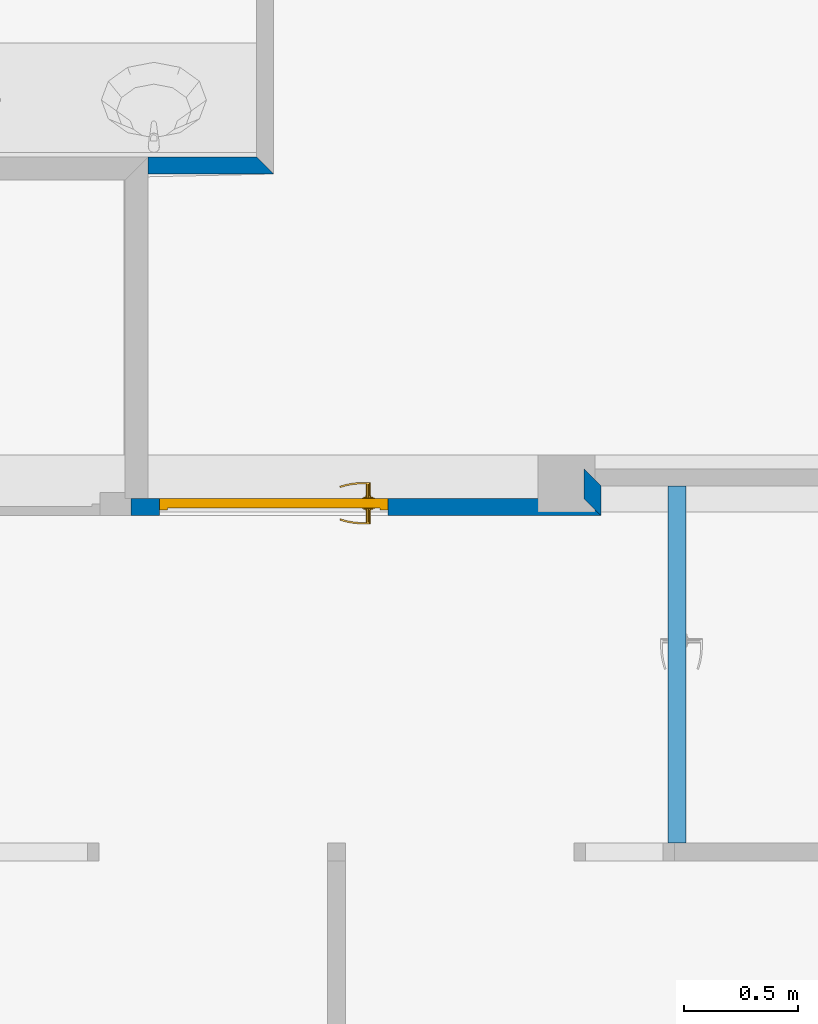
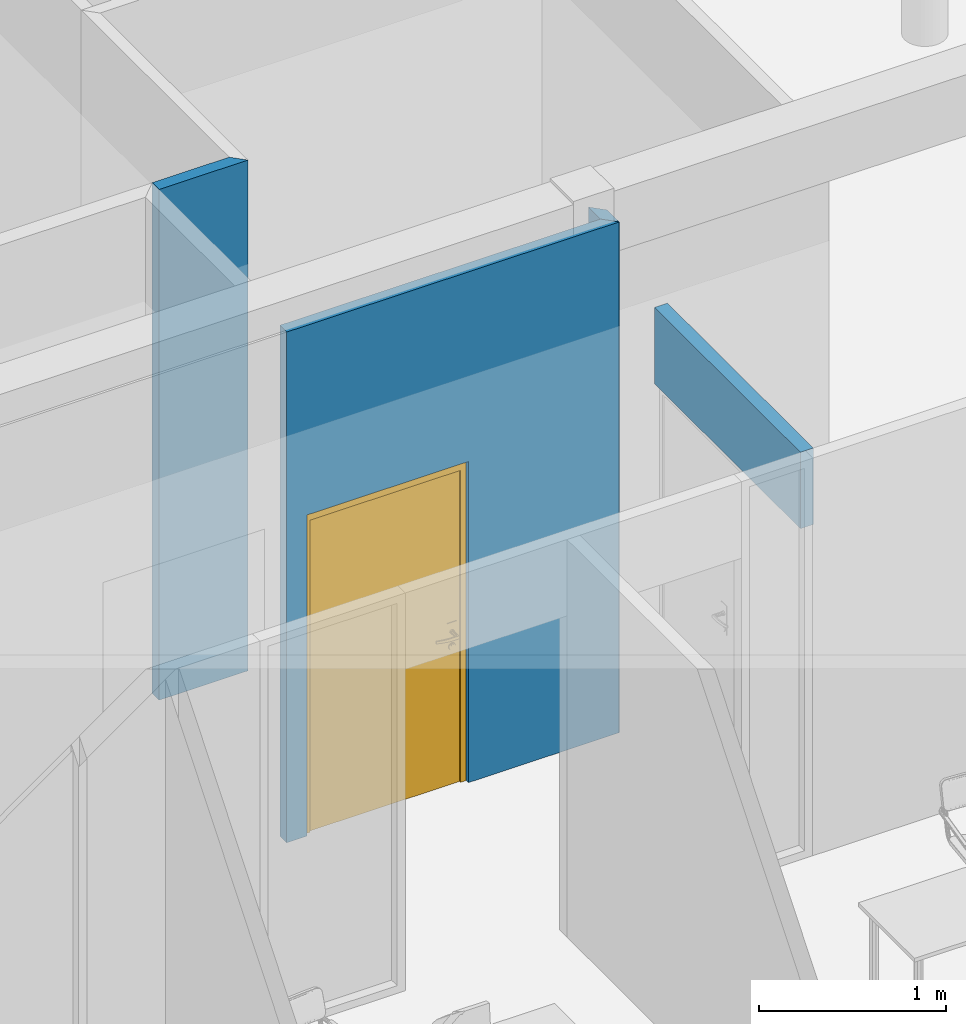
# One storey, part 21 of 91: 4 walls, 1 door, 2 openings.
"""IFC2X3 building model written with IfcOpenShell, lengths in metres."""

from ifc_helpers import new_model, entity, si_unit, converted_unit, derived_unit, money_unit, direction, frame, origin_with_axes, origin_2d_with_axis, place, context, subcontext, project, spatial, polyline, rectangle, outline, extrude, open_shell, faceted_brep, surface_model, source, transform, mapped, material, layer, layer_set, layer_usage, type_object, element, fill, save


model = new_model("IFC2X3")

# Units and contexts
model_context = context("Model", 3, precision=1e-05, world=origin_with_axes(), true_north=direction((0.0, 1.0)))
body_context = subcontext(model_context, "Body", "Model", "MODEL_VIEW")
ifc_project = project(units=[si_unit("LENGTHUNIT", "METRE"), si_unit("AREAUNIT", "SQUARE_METRE"), si_unit("VOLUMEUNIT", "CUBIC_METRE"), converted_unit("PLANEANGLEUNIT", "DEGREE", entity("IfcPlaneAngleMeasure", 0.0174532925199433), si_unit("PLANEANGLEUNIT", "RADIAN"), dimensions=[0, 0, 0, 0, 0, 0, 0]), money_unit("EUR"), converted_unit("TIMEUNIT", "Year", entity("IfcTimeMeasure", 31557600.0), si_unit("TIMEUNIT", "SECOND"), dimensions=[0, 0, 1, 0, 0, 0, 0]), si_unit("MASSUNIT", "GRAM", prefix="KILO"), si_unit("THERMODYNAMICTEMPERATUREUNIT", "DEGREE_CELSIUS"), si_unit("LUMINOUSINTENSITYUNIT", "LUMEN"), si_unit("ENERGYUNIT", "JOULE", prefix="MEGA"), derived_unit("THERMALCONDUCTANCEUNIT", [(si_unit("POWERUNIT", "WATT"), 1), (si_unit("LENGTHUNIT", "METRE"), -1), (si_unit("THERMODYNAMICTEMPERATUREUNIT", "KELVIN"), -1)]), derived_unit("SPECIFICHEATCAPACITYUNIT", [(si_unit("ENERGYUNIT", "JOULE"), 1), (si_unit("MASSUNIT", "GRAM", prefix="KILO"), -1), (si_unit("THERMODYNAMICTEMPERATUREUNIT", "KELVIN"), -1)]), derived_unit("MASSDENSITYUNIT", [(si_unit("MASSUNIT", "GRAM", prefix="KILO"), 1), (si_unit("VOLUMEUNIT", "CUBIC_METRE"), -1)])], contexts=[model_context])

# Site, building, storey
site_placement = place(None, origin_with_axes())
site = spatial("IfcSite", under=ifc_project, at=site_placement, Name="Site", CompositionType="ELEMENT")
building_placement = place(site_placement, origin_with_axes())
building = spatial("IfcBuilding", under=site, at=building_placement, Name="Bâtiment", CompositionType="ELEMENT")
storey_placement = place(building_placement, origin_with_axes())
storey = spatial("IfcBuildingStorey", under=building, at=storey_placement, Name="RDC", CompositionType="ELEMENT", Elevation=0.0)

# Wall
ifc_material_1 = material(Name="Finition int - Plaque de plâtre")
ifc_layer_1 = layer(ifc_material_1, 0.013, ventilated="UNKNOWN")
ifc_material_2 = material(Name="Isolation - Laine de verre")
ifc_layer_2 = layer(ifc_material_2, 0.048, ventilated="UNKNOWN")
ifc_layer_3 = layer(ifc_material_1, 0.013, ventilated="UNKNOWN")
ifc_layer_set_1 = layer_set([ifc_layer_1, ifc_layer_2, ifc_layer_3], Name="*Cloison 72")
ifc_layer_usage_1 = layer_usage(ifc_layer_set_1, "AXIS2", "NEGATIVE", 0.0)
wall_type_1 = type_object("IfcWallType", Name="*Cloison 72 74", PredefinedType="NOTDEFINED")
wall_1_placement = place(storey_placement, frame((41.58700816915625, -20.02867050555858, 0.0), z_axis=(0.0, 0.0, 1.0), x_axis=(0.9999999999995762, -9.206209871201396e-07, 0.0)))
element("IfcWallStandardCase", 1, at=wall_1_placement, inside=storey, type_object=wall_type_1, material=ifc_layer_usage_1, Name="Cloisons ép. 72mm", context=body_context, shape_type="SweptSolid", body=[
    extrude(outline(polyline([(6.81259493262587e-08, -0.07400000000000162), (0.5500000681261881, -0.07400000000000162), (0.476000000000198, 0.0), (0.0, 0.0), (6.81259493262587e-08, -0.07400000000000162)])), origin_with_axes(), (0.0, 0.0, 1.0), 3.34),
])

# Wall, opening, door
ifc_layer_usage_2 = layer_usage(ifc_layer_set_1, "AXIS2", "NEGATIVE", 0.0)
wall_2_placement = place(storey_placement, frame((43.57009865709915, -21.59755971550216, 0.0), z_axis=(0.0, 0.0, 1.0), x_axis=(-1.0, 0.0, 0.0)))
wall_2 = element("IfcWallStandardCase", 2, at=wall_2_placement, inside=storey, type_object=wall_type_1, material=ifc_layer_usage_2, Name="Cloisons ép. 72mm", context=body_context, shape_type="SweptSolid", body=[
    extrude(outline(polyline([(0.07399999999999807, -0.07400000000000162), (2.057090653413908, -0.07400000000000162), (2.057090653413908, 0.0), (0.0, 0.0), (0.07399999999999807, -0.07400000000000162)])), origin_with_axes(), (0.0, 0.0, 1.0), 3.34),
])
opening_1_placement = place(wall_2_placement, frame((1.433090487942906, 0.0, 0.0), z_axis=(0.0, 0.0, 1.0), x_axis=(1.0, 0.0, 0.0)))
opening_1 = element("IfcOpeningElement", 3, at=opening_1_placement, cuts=wall_2, Name="Pi.05", context=body_context, shape_type="SweptSolid", body=[
    extrude(rectangle(XDim=1.0, YDim=2.1, at=origin_2d_with_axis()), frame((0.0, 0.07400000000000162, 1.05), z_axis=(0.0, 1.0, 0.0), x_axis=(1.0, 0.0, 0.0)), (0.0, 0.0, -1.0), 0.222),
])
door_style = type_object("IfcDoorStyle", Name="Porte 27", ConstructionType="NOTDEFINED", OperationType="SINGLE_SWING_LEFT", ParameterTakesPrecedence=False, Sizeable=False)
shared_shape = source(origin_with_axes(), body_context, "Body", "SurfaceModel", [
    faceted_brep([(0.5, 0.0, 0.0), (0.5, -0.05, 0.0), (0.465, -0.05, 0.0), (0.465, 0.0, 0.0), (0.5, 0.0, 2.04), (0.5, -0.05, 2.04), (0.465, -0.05, 2.04), (0.465, 0.0, 2.04)], [[[0, 1, 2, 3]], [[4, 5, 1, 0]], [[1, 5, 6, 2]], [[3, 2, 6, 7]], [[0, 3, 7, 4]], [[7, 6, 5, 4]]]),
    faceted_brep([(-0.5, 0.0, 0.0), (-0.5, -0.05, 0.0), (-0.5, -0.05, 2.04), (-0.5, 0.0, 2.04), (-0.465, 0.0, 0.0), (-0.465, -0.05, 0.0), (-0.465, -0.05, 2.04), (-0.465, 0.0, 2.04)], [[[0, 1, 2, 3]], [[4, 5, 1, 0]], [[1, 5, 6, 2]], [[3, 2, 6, 7]], [[0, 3, 7, 4]], [[7, 6, 5, 4]]]),
    faceted_brep([(0.5, 0.0, 2.1), (0.5, -0.05, 2.1), (0.5, -0.05, 2.04), (0.5, 0.0, 2.04), (-0.5, 0.0, 2.1), (-0.5, -0.05, 2.1), (-0.5, -0.05, 2.04), (-0.465, -0.05, 2.04), (0.465, -0.05, 2.04), (0.465, 0.0, 2.04), (-0.465, 0.0, 2.04), (-0.5, 0.0, 2.04)], [[[0, 1, 2, 3]], [[4, 5, 1, 0]], [[1, 5, 6, 7, 8, 2]], [[3, 2, 8, 9]], [[0, 3, 9, 10, 11, 4]], [[11, 6, 5, 4]], [[10, 7, 6, 11]], [[9, 8, 7, 10]]]),
    faceted_brep([(0.4435, -0.04, 1.06), (0.3865, -0.04, 1.06), (0.3865, -0.043, 1.06), (0.4435, -0.043, 1.06), (0.4435, -0.04, 0.87), (0.3865, -0.04, 0.87), (0.3865, -0.043, 0.87), (0.4435, -0.043, 0.87)], [[[0, 1, 2, 3]], [[0, 4, 5, 1]], [[1, 5, 6, 2]], [[3, 2, 6, 7]], [[4, 0, 3, 7]], [[5, 4, 7, 6]]]),
    faceted_brep([(0.4149999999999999, -0.104, 0.99), (0.4199999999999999, -0.104, 0.9913397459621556), (0.4199999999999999, -0.111, 0.9913397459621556), (0.4149999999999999, -0.111, 0.99), (0.3899999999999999, -0.104, 0.99), (0.3899999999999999, -0.104, 1.01), (0.4149999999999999, -0.104, 1.01), (0.4199999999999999, -0.104, 1.008660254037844), (0.4236602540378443, -0.104, 1.005), (0.4249999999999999, -0.104, 1.0), (0.4236602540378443, -0.104, 0.995), (0.4236602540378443, -0.111, 0.995), (0.4249999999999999, -0.111, 1.0), (0.4236602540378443, -0.111, 1.005), (0.4199999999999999, -0.111, 1.008660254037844), (0.4149999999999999, -0.111, 1.01), (0.3899999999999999, -0.111, 1.01), (0.3899999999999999, -0.111, 0.99)], [[[0, 1, 2, 3]], [[0, 4, 5, 6, 7, 8, 9, 10, 1]], [[1, 10, 11, 2]], [[3, 2, 11, 12, 13, 14, 15, 16, 17]], [[4, 0, 3, 17]], [[5, 4, 17, 16]], [[6, 5, 16, 15]], [[7, 6, 15, 14]], [[8, 7, 14, 13]], [[9, 8, 13, 12]], [[10, 9, 12, 11]]]),
    surface_model("IfcShellBasedSurfaceModel", [(0.3899999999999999, -0.104, 1.01), (0.3769017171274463, -0.104, 1.009607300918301), (0.3765960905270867, -0.111, 1.009607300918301), (0.3899999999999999, -0.104, 0.99), (0.3769017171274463, -0.104, 0.9903926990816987), (0.349890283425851, -0.1086635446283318, 1.008821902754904), (0.3899999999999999, -0.111, 1.01), (0.3899999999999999, -0.111, 0.99), (0.3508048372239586, -0.1017168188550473, 0.9911780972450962), (0.3508048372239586, -0.1017168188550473, 1.008821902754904), (0.349890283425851, -0.1086635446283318, 0.9911780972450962), (0.3765960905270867, -0.111, 0.9903926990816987), (0.325006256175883, -0.09716783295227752, 0.9919634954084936), (0.325006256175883, -0.09716783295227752, 1.008036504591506), (0.3234897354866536, -0.104008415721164, 1.008036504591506), (0.3234897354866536, -0.104008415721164, 0.9919634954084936), (0.2997023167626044, -0.09038766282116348, 0.9927488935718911), (0.2997023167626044, -0.09038766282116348, 1.007251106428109), (0.2975953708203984, -0.09707004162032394, 1.007251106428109), (0.2975953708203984, -0.09707004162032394, 0.9927488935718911), (0.2918294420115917, -0.08752217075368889, 0.993), (0.2918294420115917, -0.08752217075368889, 1.007), (0.2895387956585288, -0.09413768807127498, 1.007), (0.2895387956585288, -0.09413768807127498, 0.993)], [open_shell([[[0, 1, 2]], [[0, 3, 4, 1]], [[1, 5, 2]], [[0, 2, 6]], [[4, 3, 7]], [[1, 4, 8, 9]], [[1, 9, 5]], [[2, 5, 10, 11]], [[6, 2, 11, 7]], [[4, 7, 11]], [[8, 4, 11]], [[9, 8, 12, 13]], [[9, 14, 5]], [[5, 14, 15, 10]], [[8, 11, 10]], [[12, 8, 10]], [[13, 12, 16, 17]], [[9, 13, 14]], [[14, 18, 19, 15]], [[12, 10, 15]], [[16, 12, 15]], [[17, 16, 20, 21]], [[13, 17, 18]], [[13, 18, 14]], [[18, 22, 23, 19]], [[16, 15, 19]], [[20, 16, 19]], [[21, 20, 23, 22]], [[17, 21, 22]], [[17, 22, 18]], [[20, 19, 23]]])]),
    faceted_brep([(0.4046076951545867, -0.05300000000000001, 0.994), (0.4029999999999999, -0.05300000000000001, 1.0), (0.4019999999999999, -0.043, 1.0), (0.4037416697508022, -0.043, 0.9935), (0.4089999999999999, -0.05300000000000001, 0.9896076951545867), (0.4149999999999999, -0.05300000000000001, 0.988), (0.4209999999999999, -0.05300000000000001, 0.9896076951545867), (0.4253923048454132, -0.05300000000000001, 0.994), (0.4269999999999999, -0.05300000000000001, 1.0), (0.4253923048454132, -0.05300000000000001, 1.006), (0.4209999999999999, -0.05300000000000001, 1.010392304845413), (0.4149999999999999, -0.05300000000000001, 1.012), (0.4089999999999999, -0.05300000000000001, 1.010392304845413), (0.4046076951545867, -0.05300000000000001, 1.006), (0.4037416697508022, -0.043, 1.0065), (0.4084999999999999, -0.043, 1.011258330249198), (0.4149999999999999, -0.043, 1.013), (0.4214999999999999, -0.043, 1.011258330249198), (0.4262583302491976, -0.043, 1.0065), (0.4279999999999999, -0.043, 1.0), (0.4262583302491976, -0.043, 0.9934999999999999), (0.4214999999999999, -0.043, 0.9887416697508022), (0.4149999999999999, -0.043, 0.987), (0.4084999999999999, -0.043, 0.9887416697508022)], [[[0, 1, 2, 3]], [[1, 0, 4, 5, 6, 7, 8, 9, 10, 11, 12, 13]], [[1, 13, 14, 2]], [[2, 14, 15, 16, 17, 18, 19, 20, 21, 22, 23, 3]], [[4, 0, 3, 23]], [[5, 4, 23, 22]], [[6, 5, 22, 21]], [[7, 6, 21, 20]], [[8, 7, 20, 19]], [[9, 8, 19, 18]], [[10, 9, 18, 17]], [[11, 10, 17, 16]], [[12, 11, 16, 15]], [[13, 12, 15, 14]]]),
    faceted_brep([(0.3976794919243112, -0.04700000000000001, 0.895), (0.3949999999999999, -0.04700000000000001, 0.905), (0.3929999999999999, -0.043, 0.905), (0.3959474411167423, -0.04300000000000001, 0.894), (0.4049999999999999, -0.04700000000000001, 0.8876794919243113), (0.4149999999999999, -0.04700000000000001, 0.885), (0.4249999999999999, -0.04700000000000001, 0.8876794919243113), (0.4323205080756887, -0.04700000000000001, 0.895), (0.4349999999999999, -0.04700000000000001, 0.905), (0.4323205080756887, -0.04700000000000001, 0.915), (0.4249999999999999, -0.04700000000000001, 0.9223205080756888), (0.4149999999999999, -0.04700000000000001, 0.925), (0.4049999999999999, -0.04700000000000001, 0.9223205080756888), (0.3976794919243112, -0.04700000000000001, 0.915), (0.3959474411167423, -0.043, 0.916), (0.4039999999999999, -0.043, 0.9240525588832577), (0.4149999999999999, -0.043, 0.927), (0.4259999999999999, -0.04300000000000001, 0.9240525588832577), (0.4340525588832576, -0.04300000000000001, 0.916), (0.4369999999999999, -0.04300000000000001, 0.905), (0.4340525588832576, -0.04300000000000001, 0.894), (0.4259999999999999, -0.04300000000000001, 0.8859474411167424), (0.4149999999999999, -0.04300000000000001, 0.883), (0.4039999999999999, -0.04300000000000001, 0.8859474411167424)], [[[0, 1, 2, 3]], [[1, 0, 4, 5, 6, 7, 8, 9, 10, 11, 12, 13]], [[1, 13, 14, 2]], [[2, 14, 15, 16, 17, 18, 19, 20, 21, 22, 23, 3]], [[4, 0, 3, 23]], [[5, 4, 23, 22]], [[6, 5, 22, 21]], [[7, 6, 21, 20]], [[8, 7, 20, 19]], [[9, 8, 19, 18]], [[10, 9, 18, 17]], [[11, 10, 17, 16]], [[12, 11, 16, 15]], [[13, 12, 15, 14]]]),
    faceted_brep([(0.4100502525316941, -0.04900000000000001, 0.9090502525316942), (0.4079999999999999, -0.04900000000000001, 0.914), (0.4069999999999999, -0.04700000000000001, 0.914), (0.4093431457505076, -0.04700000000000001, 0.9083431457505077), (0.4149999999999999, -0.04900000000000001, 0.907), (0.4199497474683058, -0.04900000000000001, 0.9090502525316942), (0.4219999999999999, -0.04900000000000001, 0.914), (0.4199497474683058, -0.04900000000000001, 0.9189497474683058), (0.4149999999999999, -0.04900000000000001, 0.921), (0.4100502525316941, -0.04900000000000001, 0.9189497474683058), (0.4093431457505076, -0.04700000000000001, 0.9196568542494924), (0.4149999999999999, -0.04700000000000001, 0.922), (0.4206568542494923, -0.04700000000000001, 0.9196568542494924), (0.4229999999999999, -0.04700000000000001, 0.914), (0.4206568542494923, -0.04700000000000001, 0.9083431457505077), (0.4149999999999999, -0.04700000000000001, 0.906)], [[[0, 1, 2, 3]], [[1, 0, 4, 5, 6, 7, 8, 9]], [[1, 9, 10, 2]], [[2, 10, 11, 12, 13, 14, 15, 3]], [[4, 0, 3, 15]], [[5, 4, 15, 14]], [[6, 5, 14, 13]], [[7, 6, 13, 12]], [[8, 7, 12, 11]], [[9, 8, 11, 10]]]),
    faceted_brep([(0.4149999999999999, -0.05300000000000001, 1.01), (0.4099999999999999, -0.05300000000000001, 1.008660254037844), (0.4099999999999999, -0.104, 1.008660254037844), (0.4149999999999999, -0.104, 1.01), (0.4199999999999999, -0.05300000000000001, 1.008660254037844), (0.4236602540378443, -0.05300000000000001, 1.005), (0.4249999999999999, -0.05300000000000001, 1.0), (0.4236602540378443, -0.05300000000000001, 0.995), (0.4199999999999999, -0.05300000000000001, 0.9913397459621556), (0.4149999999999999, -0.05300000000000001, 0.99), (0.4099999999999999, -0.05300000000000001, 0.9913397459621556), (0.4063397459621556, -0.05300000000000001, 0.995), (0.4049999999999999, -0.05300000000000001, 1.0), (0.4063397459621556, -0.05300000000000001, 1.005), (0.4063397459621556, -0.104, 1.005), (0.4049999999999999, -0.104, 1.0), (0.4063397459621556, -0.104, 0.995), (0.4099999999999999, -0.104, 0.9913397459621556), (0.4149999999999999, -0.104, 0.99), (0.4199999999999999, -0.104, 0.9913397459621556), (0.4236602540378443, -0.104, 0.995), (0.4249999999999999, -0.104, 1.0), (0.4236602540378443, -0.104, 1.005), (0.4199999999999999, -0.104, 1.008660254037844)], [[[0, 1, 2, 3]], [[0, 4, 5, 6, 7, 8, 9, 10, 11, 12, 13, 1]], [[1, 13, 14, 2]], [[3, 2, 14, 15, 16, 17, 18, 19, 20, 21, 22, 23]], [[4, 0, 3, 23]], [[5, 4, 23, 22]], [[6, 5, 22, 21]], [[7, 6, 21, 20]], [[8, 7, 20, 19]], [[9, 8, 19, 18]], [[10, 9, 18, 17]], [[11, 10, 17, 16]], [[12, 11, 16, 15]], [[13, 12, 15, 14]]]),
    faceted_brep([(0.4434999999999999, 0.0, 1.06), (0.4434999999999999, 0.003000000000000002, 1.06), (0.3864999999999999, 0.002999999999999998, 1.06), (0.3864999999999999, 0.0, 1.06), (0.4434999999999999, 0.0, 0.87), (0.4434999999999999, 0.003000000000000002, 0.87), (0.3864999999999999, 0.002999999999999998, 0.87), (0.3864999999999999, 0.0, 0.87)], [[[0, 1, 2, 3]], [[4, 5, 1, 0]], [[1, 5, 6, 2]], [[3, 2, 6, 7]], [[0, 3, 7, 4]], [[7, 6, 5, 4]]]),
    faceted_brep([(0.4149999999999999, 0.064, 0.99), (0.4149999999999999, 0.07100000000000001, 0.99), (0.4199999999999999, 0.07100000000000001, 0.9913397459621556), (0.4199999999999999, 0.064, 0.9913397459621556), (0.3899999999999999, 0.064, 0.99), (0.3899999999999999, 0.071, 0.99), (0.3899999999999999, 0.071, 1.01), (0.4149999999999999, 0.07100000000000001, 1.01), (0.4199999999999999, 0.07100000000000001, 1.008660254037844), (0.4236602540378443, 0.07100000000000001, 1.005), (0.4249999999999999, 0.07100000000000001, 1.0), (0.4236602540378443, 0.07100000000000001, 0.995), (0.4236602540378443, 0.064, 0.995), (0.4249999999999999, 0.064, 1.0), (0.4236602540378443, 0.064, 1.005), (0.4199999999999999, 0.064, 1.008660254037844), (0.4149999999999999, 0.064, 1.01), (0.3899999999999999, 0.064, 1.01)], [[[0, 1, 2, 3]], [[4, 5, 1, 0]], [[1, 5, 6, 7, 8, 9, 10, 11, 2]], [[3, 2, 11, 12]], [[0, 3, 12, 13, 14, 15, 16, 17, 4]], [[17, 6, 5, 4]], [[16, 7, 6, 17]], [[15, 8, 7, 16]], [[14, 9, 8, 15]], [[13, 10, 9, 14]], [[12, 11, 10, 13]]]),
    surface_model("IfcShellBasedSurfaceModel", [(0.3899999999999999, 0.064, 1.01), (0.3765960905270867, 0.071, 1.009607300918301), (0.3769017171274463, 0.064, 1.009607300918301), (0.3899999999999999, 0.07100000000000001, 1.01), (0.349890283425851, 0.06866354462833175, 1.008821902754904), (0.3769017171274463, 0.064, 0.9903926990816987), (0.3899999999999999, 0.064, 0.99), (0.3899999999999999, 0.07100000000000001, 0.99), (0.3765960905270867, 0.071, 0.9903926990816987), (0.349890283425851, 0.06866354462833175, 0.9911780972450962), (0.3508048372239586, 0.06171681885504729, 1.008821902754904), (0.3508048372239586, 0.06171681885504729, 0.9911780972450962), (0.3234897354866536, 0.064008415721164, 0.9919634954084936), (0.3234897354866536, 0.064008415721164, 1.008036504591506), (0.325006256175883, 0.05716783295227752, 1.008036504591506), (0.325006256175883, 0.05716783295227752, 0.9919634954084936), (0.2975953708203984, 0.05707004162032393, 0.9927488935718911), (0.2975953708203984, 0.05707004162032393, 1.007251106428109), (0.2997023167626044, 0.05038766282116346, 1.007251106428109), (0.2997023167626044, 0.05038766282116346, 0.9927488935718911), (0.2895387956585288, 0.05413768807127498, 0.993), (0.2895387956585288, 0.05413768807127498, 1.007), (0.2918294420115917, 0.04752217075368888, 1.007), (0.2918294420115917, 0.04752217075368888, 0.993)], [open_shell([[[0, 1, 2]], [[0, 3, 1]], [[2, 1, 4]], [[0, 2, 5, 6]], [[3, 7, 8, 1]], [[1, 8, 9, 4]], [[2, 4, 10]], [[2, 10, 11, 5]], [[5, 7, 6]], [[5, 8, 7]], [[11, 9, 8]], [[4, 9, 12, 13]], [[10, 4, 13]], [[10, 14, 15, 11]], [[11, 8, 5]], [[15, 9, 11]], [[15, 12, 9]], [[13, 12, 16, 17]], [[10, 13, 14]], [[14, 18, 19, 15]], [[19, 12, 15]], [[19, 16, 12]], [[17, 16, 20, 21]], [[14, 13, 17]], [[14, 17, 18]], [[18, 22, 23, 19]], [[23, 16, 19]], [[23, 20, 16]], [[22, 21, 20, 23]], [[18, 17, 21]], [[18, 21, 22]]])]),
    faceted_brep([(0.4046076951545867, 0.013, 0.994), (0.4037416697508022, 0.003, 0.9935), (0.4019999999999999, 0.002999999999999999, 1.0), (0.4029999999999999, 0.013, 1.0), (0.4089999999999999, 0.013, 0.9896076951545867), (0.4084999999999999, 0.003, 0.9887416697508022), (0.4149999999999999, 0.003000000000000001, 0.987), (0.4214999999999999, 0.003000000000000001, 0.9887416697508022), (0.4262583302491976, 0.003000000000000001, 0.9934999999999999), (0.4279999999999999, 0.003000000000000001, 1.0), (0.4262583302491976, 0.003, 1.0065), (0.4214999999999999, 0.003, 1.011258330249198), (0.4149999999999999, 0.002999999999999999, 1.013), (0.4084999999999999, 0.002999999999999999, 1.011258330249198), (0.4037416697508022, 0.002999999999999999, 1.0065), (0.4046076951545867, 0.013, 1.006), (0.4089999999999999, 0.013, 1.010392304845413), (0.4149999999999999, 0.013, 1.012), (0.4209999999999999, 0.013, 1.010392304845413), (0.4253923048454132, 0.013, 1.006), (0.4269999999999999, 0.013, 1.0), (0.4253923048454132, 0.013, 0.994), (0.4209999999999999, 0.013, 0.9896076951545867), (0.4149999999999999, 0.013, 0.988)], [[[0, 1, 2, 3]], [[4, 5, 1, 0]], [[2, 1, 5, 6, 7, 8, 9, 10, 11, 12, 13, 14]], [[3, 2, 14, 15]], [[3, 15, 16, 17, 18, 19, 20, 21, 22, 23, 4, 0]], [[23, 6, 5, 4]], [[22, 7, 6, 23]], [[21, 8, 7, 22]], [[20, 9, 8, 21]], [[19, 10, 9, 20]], [[18, 11, 10, 19]], [[17, 12, 11, 18]], [[16, 13, 12, 17]], [[15, 14, 13, 16]]]),
    faceted_brep([(0.3976794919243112, 0.007000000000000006, 0.895), (0.3959474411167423, 0.003000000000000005, 0.894), (0.3929999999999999, 0.003000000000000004, 0.905), (0.3949999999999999, 0.007000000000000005, 0.905), (0.4049999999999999, 0.007000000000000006, 0.8876794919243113), (0.4039999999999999, 0.003000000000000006, 0.8859474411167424), (0.4149999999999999, 0.003000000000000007, 0.883), (0.4259999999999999, 0.003000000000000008, 0.8859474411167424), (0.4340525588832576, 0.003000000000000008, 0.894), (0.4369999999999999, 0.003000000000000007, 0.905), (0.4340525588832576, 0.003000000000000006, 0.916), (0.4259999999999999, 0.003000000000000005, 0.9240525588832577), (0.4149999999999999, 0.003000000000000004, 0.927), (0.4039999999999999, 0.003000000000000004, 0.9240525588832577), (0.3959474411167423, 0.003000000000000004, 0.916), (0.3976794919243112, 0.007000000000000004, 0.915), (0.4049999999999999, 0.007000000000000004, 0.9223205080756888), (0.4149999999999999, 0.007000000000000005, 0.925), (0.4249999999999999, 0.007000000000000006, 0.9223205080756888), (0.4323205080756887, 0.007000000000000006, 0.915), (0.4349999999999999, 0.007000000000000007, 0.905), (0.4323205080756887, 0.007000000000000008, 0.895), (0.4249999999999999, 0.007000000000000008, 0.8876794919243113), (0.4149999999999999, 0.007000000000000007, 0.885)], [[[0, 1, 2, 3]], [[4, 5, 1, 0]], [[2, 1, 5, 6, 7, 8, 9, 10, 11, 12, 13, 14]], [[3, 2, 14, 15]], [[3, 15, 16, 17, 18, 19, 20, 21, 22, 23, 4, 0]], [[23, 6, 5, 4]], [[22, 7, 6, 23]], [[21, 8, 7, 22]], [[20, 9, 8, 21]], [[19, 10, 9, 20]], [[18, 11, 10, 19]], [[17, 12, 11, 18]], [[16, 13, 12, 17]], [[15, 14, 13, 16]]]),
    faceted_brep([(0.4100502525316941, 0.009000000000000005, 0.9090502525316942), (0.4093431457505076, 0.007000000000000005, 0.9083431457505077), (0.4069999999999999, 0.007000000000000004, 0.914), (0.4079999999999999, 0.009000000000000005, 0.914), (0.4149999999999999, 0.009000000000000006, 0.907), (0.4149999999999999, 0.007000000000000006, 0.906), (0.4206568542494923, 0.007000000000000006, 0.9083431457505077), (0.4229999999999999, 0.007000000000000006, 0.914), (0.4206568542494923, 0.007000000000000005, 0.9196568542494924), (0.4149999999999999, 0.007000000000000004, 0.922), (0.4093431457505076, 0.007000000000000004, 0.9196568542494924), (0.4100502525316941, 0.009000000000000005, 0.9189497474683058), (0.4149999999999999, 0.009000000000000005, 0.921), (0.4199497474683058, 0.009000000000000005, 0.9189497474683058), (0.4219999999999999, 0.009000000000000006, 0.914), (0.4199497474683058, 0.009000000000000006, 0.9090502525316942)], [[[0, 1, 2, 3]], [[4, 5, 1, 0]], [[2, 1, 5, 6, 7, 8, 9, 10]], [[3, 2, 10, 11]], [[3, 11, 12, 13, 14, 15, 4, 0]], [[15, 6, 5, 4]], [[14, 7, 6, 15]], [[13, 8, 7, 14]], [[12, 9, 8, 13]], [[11, 10, 9, 12]]]),
    faceted_brep([(0.4149999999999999, 0.013, 1.01), (0.4149999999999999, 0.064, 1.01), (0.4099999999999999, 0.064, 1.008660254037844), (0.4099999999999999, 0.013, 1.008660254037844), (0.4199999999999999, 0.013, 1.008660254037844), (0.4199999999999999, 0.064, 1.008660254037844), (0.4236602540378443, 0.064, 1.005), (0.4249999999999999, 0.064, 1.0), (0.4236602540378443, 0.064, 0.995), (0.4199999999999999, 0.064, 0.9913397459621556), (0.4149999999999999, 0.064, 0.99), (0.4099999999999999, 0.064, 0.9913397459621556), (0.4063397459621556, 0.064, 0.995), (0.4049999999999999, 0.064, 1.0), (0.4063397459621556, 0.064, 1.005), (0.4063397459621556, 0.013, 1.005), (0.4049999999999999, 0.013, 1.0), (0.4063397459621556, 0.013, 0.995), (0.4099999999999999, 0.013, 0.9913397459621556), (0.4149999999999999, 0.013, 0.99), (0.4199999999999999, 0.013, 0.9913397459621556), (0.4236602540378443, 0.013, 0.995), (0.4249999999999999, 0.013, 1.0), (0.4236602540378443, 0.013, 1.005)], [[[0, 1, 2, 3]], [[4, 5, 1, 0]], [[1, 5, 6, 7, 8, 9, 10, 11, 12, 13, 14, 2]], [[3, 2, 14, 15]], [[0, 3, 15, 16, 17, 18, 19, 20, 21, 22, 23, 4]], [[23, 6, 5, 4]], [[22, 7, 6, 23]], [[21, 8, 7, 22]], [[20, 9, 8, 21]], [[19, 10, 9, 20]], [[18, 11, 10, 19]], [[17, 12, 11, 18]], [[16, 13, 12, 17]], [[15, 14, 13, 16]]]),
    faceted_brep([(-0.465, 0.0, 0.0), (0.465, 0.0, 0.0), (0.465, -0.04, 0.0), (-0.465, -0.04, 0.0), (-0.465, 0.0, 2.04), (0.465, 0.0, 2.04), (0.465, -0.04000000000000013, 2.04), (-0.465, -0.04000000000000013, 2.04)], [[[0, 1, 2, 3]], [[0, 4, 5, 1]], [[1, 5, 6, 2]], [[3, 2, 6, 7]], [[4, 0, 3, 7]], [[5, 4, 7, 6]]]),
])
door_placement = place(opening_1_placement, frame((0.5, 0.0, 0.0), z_axis=(0.0, 0.0, 1.0), x_axis=(-1.0, 0.0, 0.0)))
door = element("IfcDoor", 4, at=door_placement, inside=storey, type_object=door_style, Name="Pi.05", OverallHeight=2.1, OverallWidth=1.0, context=body_context, shape_type="MappedRepresentation", body=[
    mapped(shared_shape, transform((0.5, 0.07400000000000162, 0.0))),
])
fill(opening_1, door)

# Wall
ifc_layer_usage_3 = layer_usage(ifc_layer_set_1, "AXIS2", "NEGATIVE", 0.0)
wall_3_placement = place(storey_placement, frame((43.57009865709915, -21.46756192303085, 0.0), z_axis=(0.0, 0.0, 1.0), x_axis=(0.0, -1.0, 0.0)))
element("IfcWallStandardCase", 5, at=wall_3_placement, inside=storey, type_object=wall_type_1, material=ifc_layer_usage_3, Name="Cloisons ép. 72mm", context=body_context, shape_type="SweptSolid", body=[
    extrude(outline(polyline([(-0.07400000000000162, -0.07399999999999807), (0.05599779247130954, -0.07399999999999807), (0.1299977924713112, 0.0), (0.0, 0.0), (-0.07400000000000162, -0.07399999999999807)])), origin_with_axes(), (0.0, 0.0, 1.0), 3.34),
])

# Wall, opening
ifc_material_3 = material(Name="*PLAQUE DE PLATRE - CLOISON")
ifc_layer_4 = layer(ifc_material_3, 0.08, ventilated="UNKNOWN")
ifc_layer_set_2 = layer_set([ifc_layer_4], Name="*PLAQUE DE PLATRE - CLOISON 0.08")
ifc_layer_usage_4 = layer_usage(ifc_layer_set_2, "AXIS2", "POSITIVE", 0.0)
wall_type_2 = type_object("IfcWallType", Name="*PLAQUE DE PLATRE - CLOISON 80", PredefinedType="NOTDEFINED")
wall_4_placement = place(storey_placement, frame((43.94299999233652, -23.11056215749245, 0.0), z_axis=(0.0, 0.0, 1.0), x_axis=(0.0, 1.0, 0.0)))
wall_4 = element("IfcWallStandardCase", 6, at=wall_4_placement, inside=storey, type_object=wall_type_2, material=ifc_layer_usage_4, Name="Cloison modulaire", context=body_context, shape_type="SweptSolid", body=[
    extrude(outline(polyline([(0.08000000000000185, 0.0), (1.643000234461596, 0.0), (1.643000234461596, 0.0799999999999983), (0.08000000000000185, 0.0799999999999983), (0.08000000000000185, 0.0)])), origin_with_axes(), (0.0, 0.0, 1.0), 2.600000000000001),
])
opening_2_placement = place(wall_4_placement, frame((0.861500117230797, 0.0, 0.0), z_axis=(0.0, 0.0, 1.0), x_axis=(1.0, 0.0, 0.0)))
element("IfcOpeningElement", 7, at=opening_2_placement, cuts=wall_4, Name="Pi.03", context=body_context, shape_type="SweptSolid", body=[
    extrude(rectangle(XDim=1.563000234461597, YDim=2.1, at=origin_2d_with_axis()), frame((0.0, 0.0799999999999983, 1.05), z_axis=(0.0, -1.0, 0.0), x_axis=(-1.0, 0.0, 0.0)), (0.0, 0.0, 1.0), 0.24),
])

save(model, "model.ifc")
